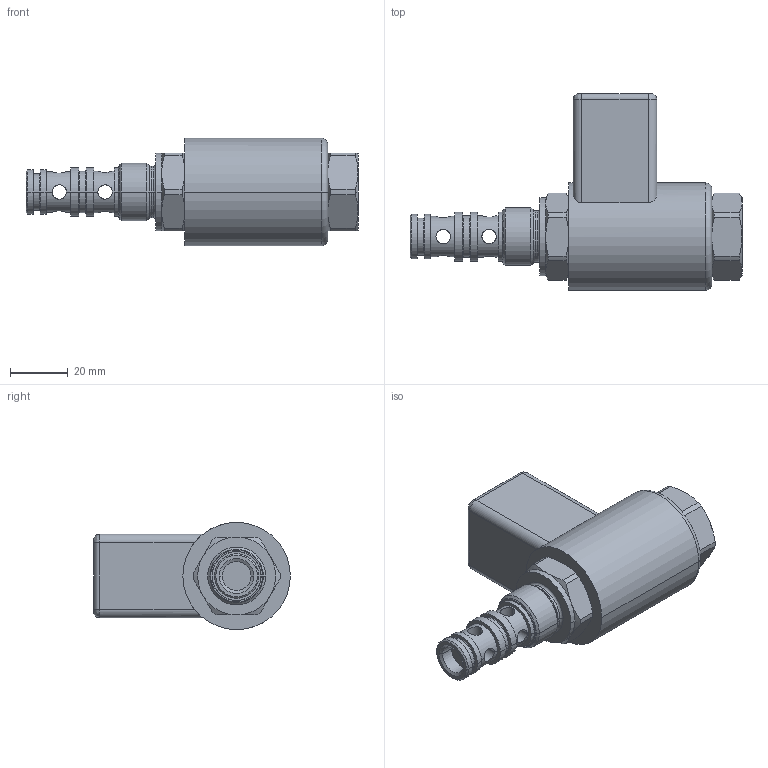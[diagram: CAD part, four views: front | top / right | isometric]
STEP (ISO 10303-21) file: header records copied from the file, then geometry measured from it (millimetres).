
FILE_DESCRIPTION((''),'2;1');
FILE_NAME('PVRM1_063','2011-03-14T',('tvatras'),(''),'PRO/ENGINEER BY PARAMETRIC TECHNOLOGY CORPORATION, 2010180','PRO/ENGINEER BY PARAMETRIC TECHNOLOGY CORPORATION, 2010180','');
FILE_SCHEMA(('CONFIG_CONTROL_DESIGN'));
Length unit declared in the file: millimetre
Products named in the file (1): PVRM1_063
Bounding box: 115 x 68.1 x 37.2 mm (x, y, z)
Volume: 101859.1 mm3; surface area: 17666.1 mm2
Topology: 1 solids, 4 shells, 163 faces, 386 edges, 233 vertices
Faces by surface type: cylinder 70, cone 40, plane 35, torus 14, bspline 4
Entity records: 5321 total; most frequent: CARTESIAN_POINT 1545, DIRECTION 812, ORIENTED_EDGE 758, EDGE_CURVE 383, AXIS2_PLACEMENT_3D 349, VERTEX_POINT 231, CIRCLE 188, EDGE_LOOP 182
